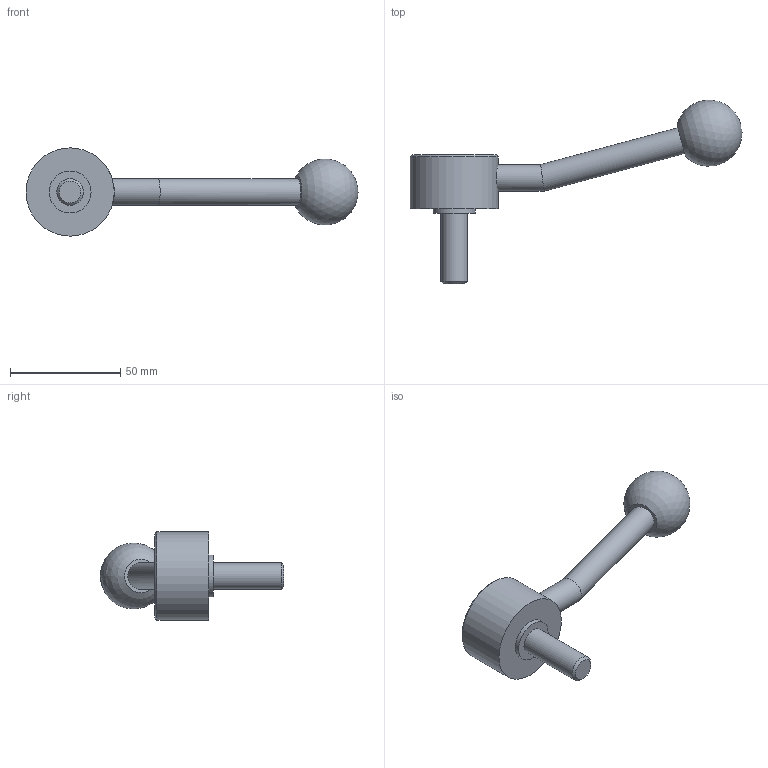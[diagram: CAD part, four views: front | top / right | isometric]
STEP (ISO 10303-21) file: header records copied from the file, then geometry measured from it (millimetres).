
FILE_DESCRIPTION( ( 'STEP AP203' ), '1' );
FILE_NAME( 'C:/Temp/Ganter_Step_05_03_2020/data/2_1/gn_125/gn_125_ms/gn_125_ms_e/Flat Adjustable Lever GN 125-40-M12-32-E.stp', '2020-03-05T11:01:01', ( 'License CC BY-ND 4.0' ), ( 'CADENAS' ), ' ', 'PARTsolutions', ' ' );
FILE_SCHEMA( ( 'CONFIG_CONTROL_DESIGN' ) );
Length unit declared in the file: millimetre
Products named in the file (1): _Flat Adjustable Lever GN 125-40-M12-32-E
Bounding box: 150.51 x 83.22 x 40 mm (x, y, z)
Volume: 58350.5 mm3; surface area: 12656.5 mm2
Topology: 1 solids, 1 shells, 15 faces, 25 edges, 16 vertices
Faces by surface type: cylinder 6, plane 6, cone 2, sphere 1
Full cylindrical faces by diameter (mm): 12 x3, 19 x1, 28 x1, 40 x1
Entity records: 422 total; most frequent: CARTESIAN_POINT 128, DIRECTION 58, AXIS2_PLACEMENT_3D 29, EDGE_LOOP 28, ORIENTED_EDGE 28, FACE_OUTER_BOUND 21, ADVANCED_FACE 15, VERTEX_POINT 15
